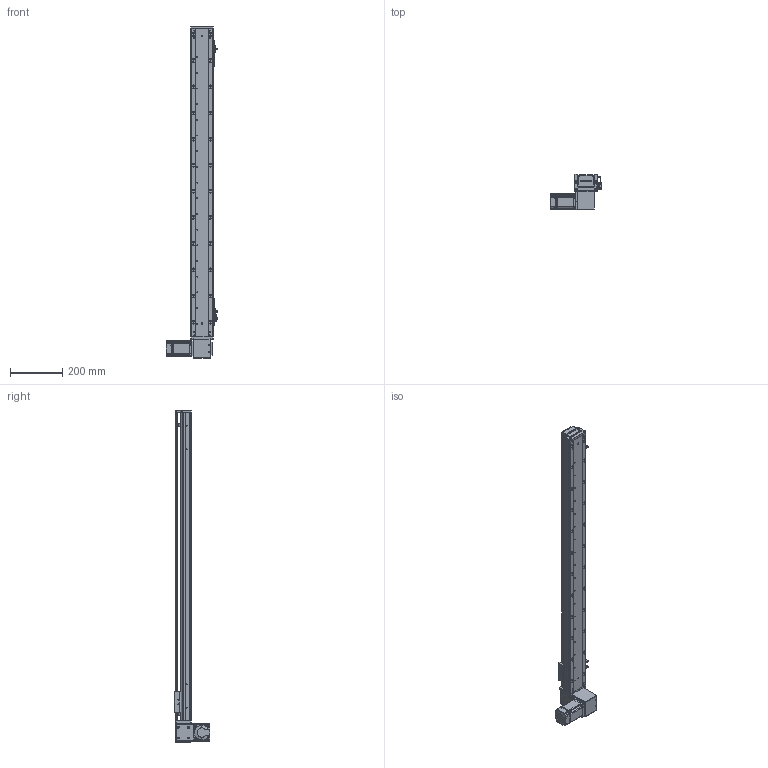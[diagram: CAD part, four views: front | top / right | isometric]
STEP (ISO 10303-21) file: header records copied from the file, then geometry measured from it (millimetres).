
FILE_DESCRIPTION (( 'STEP AP203' ), '1' );
FILE_NAME ('RY80-T-300-DL.SLDASM_1000.step', '2021-03-01T01:38:35', ( '盈信电脑' ), ( '东莞市道滘镇水果街19号' ), 'SwSTEP 2.0', 'SolidWorks 2012', '' );
FILE_SCHEMA (( 'CONFIG_CONTROL_DESIGN' ));
Products named in the file (19): RY80-T-300-DL.SLDASM_1000; RY100-T粣創揤踡裔; RY80-T-M4蹟翐3; RY80-T-上下折同步轮盖板; RY80-T翋肮祭謫裔啣; 滅袉蝶18-10; RY80-T肮祭謫狟殏俋欶; 1; RY80-T肮祭湍揤輸2; RY80-T肮祭湍揤輸1; RY80-T萇儂假蚾啣; RY80-T-翋肮祭謫釱; 覜茼ん672; 672嫖萇羲壽假蚾釱; RY80俋离覜茼え; RY80-T綴裔啣; RY80-T-300-DL倰第奻裔啣_1000; RY80-T-300-DL倰第菁釱_1000; RY80-T肮祭謫臏賑輸
Assembly tree (24 placements, depth 2):
  RY80-T-300-DL.SLDASM_1000
    RY80-T-300-DL倰第菁釱_1000
    RY80-T肮祭謫臏賑輸
    RY80-T-300-DL倰第奻裔啣_1000
    RY80-T綴裔啣
    672嫖萇羲壽假蚾釱  x2
    覜茼ん672  x3
    RY80俋离覜茼え
    RY80-T-翋肮祭謫釱
    RY80-T肮祭湍揤輸1
    RY80-T肮祭湍揤輸2
    RY80-T萇儂假蚾啣
    RY80-T翋肮祭謫裔啣  x2
    滅袉蝶18-10  x2
    1
    RY80-T肮祭謫狟殏俋欶
    RY80-T-M4蹟翐3  x2
    RY80-T-上下折同步轮盖板
    RY100-T粣創揤踡裔
Bounding box: 198.7 x 134.5 x 1270 mm (x, y, z)
Volume: 2179882.5 mm3; surface area: 925547.9 mm2
Topology: 24 solids, 24 shells, 2675 faces, 7423 edges, 4823 vertices
Faces by surface type: plane 1383, cylinder 1083, cone 153, bspline 56
Entity records: 86131 total; most frequent: CARTESIAN_POINT 22136, ORIENTED_EDGE 13290, DIRECTION 12260, EDGE_CURVE 6645, VERTEX_POINT 4364, AXIS2_PLACEMENT_3D 4168, VECTOR 3924, LINE 3924
